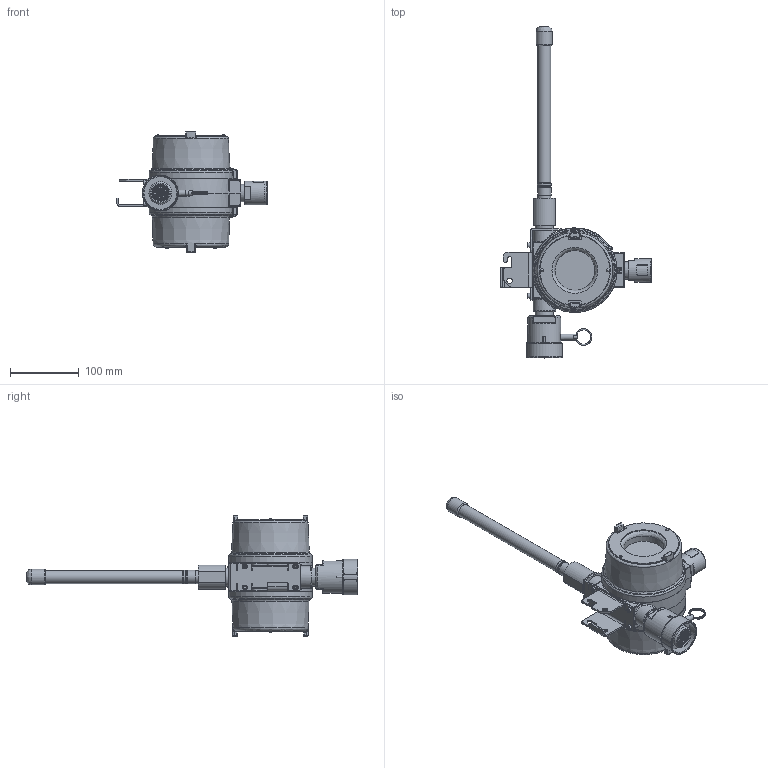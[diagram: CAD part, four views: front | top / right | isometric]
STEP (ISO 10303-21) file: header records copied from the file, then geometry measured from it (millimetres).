
FILE_DESCRIPTION (( 'STEP AP214' ), '1' );
FILE_NAME ('VGD-TCD60H4A03_07_V23.STEP', '2025-03-17T17:17:52', ( '' ), ( '' ), 'SwSTEP 2.0', 'SolidWorks 2023', '' );
FILE_SCHEMA (( 'AUTOMOTIVE_DESIGN' ));
Length unit declared in the file: inch
Products named in the file (1): VGD-TCD60H4A03_07_V23
Bounding box: 218.43 x 482.16 x 175.99 mm (x, y, z)
Surface area: 192964.2 mm2 (no closed solid volume)
Topology: 0 solids, 175 shells, 730 faces, 2080 edges, 1326 vertices
Faces by surface type: bspline 334, plane 175, cylinder 168, cone 38, sphere 9, torus 6
Full cylindrical faces by diameter (mm): 2.383 x2, 2.527 x1, 5.08 x1, 6.35 x3, 6.858 x4, 8.731 x1, 18.517 x1, 19.05 x3, 19.558 x1, 20.066 x1, 22.225 x2, 22.86 x2, 23.368 x1, 25.4 x1, 28.702 x1, 30.48 x1, 30.988 x1, 31.496 x1, 32.544 x2, 33.198 x1, 33.782 x1, 34.544 x1, 47.574 x1, 47.752 x1, 52.07 x1, 57.912 x1, 66.675 x1, 76.2 x1
Entity records: 46577 total; most frequent: CARTESIAN_POINT 31007, DIRECTION 2913, ORIENTED_EDGE 2829, EDGE_CURVE 1753, VERTEX_POINT 1255, AXIS2_PLACEMENT_3D 1197, EDGE_LOOP 1036, FACE_OUTER_BOUND 952
